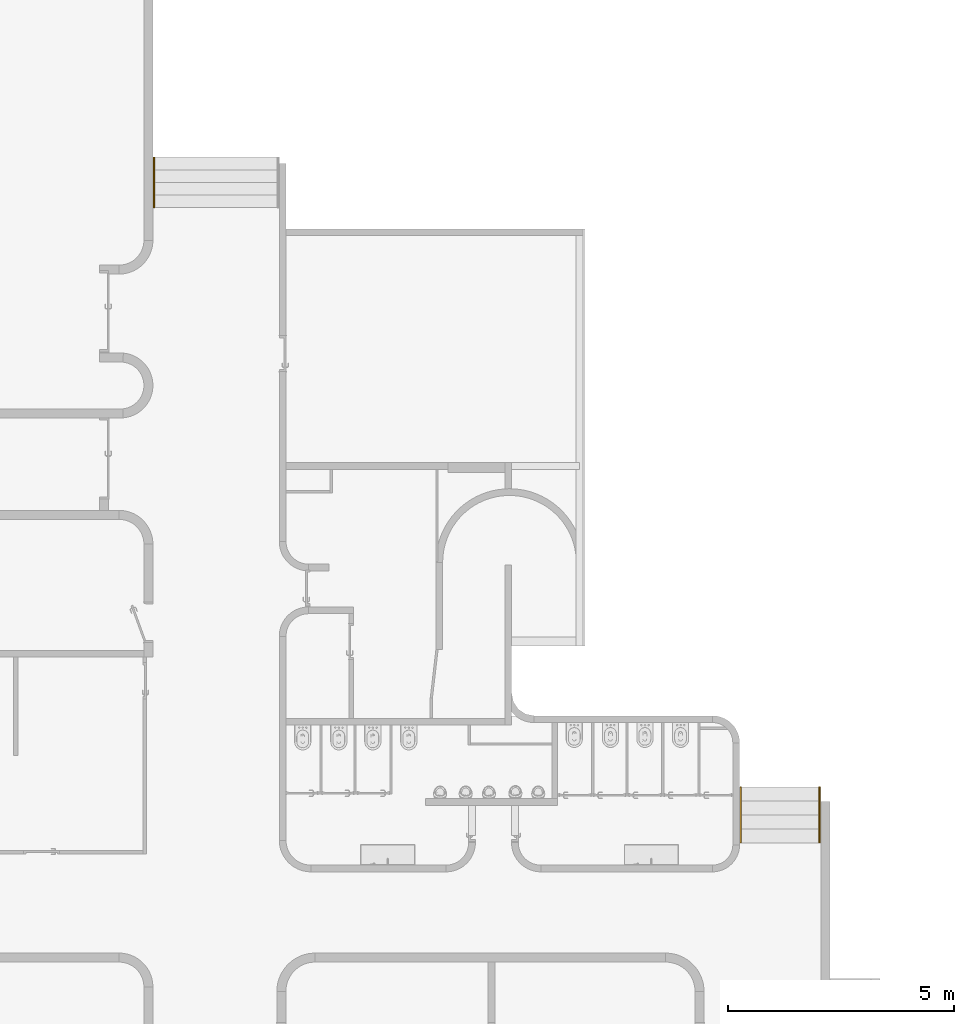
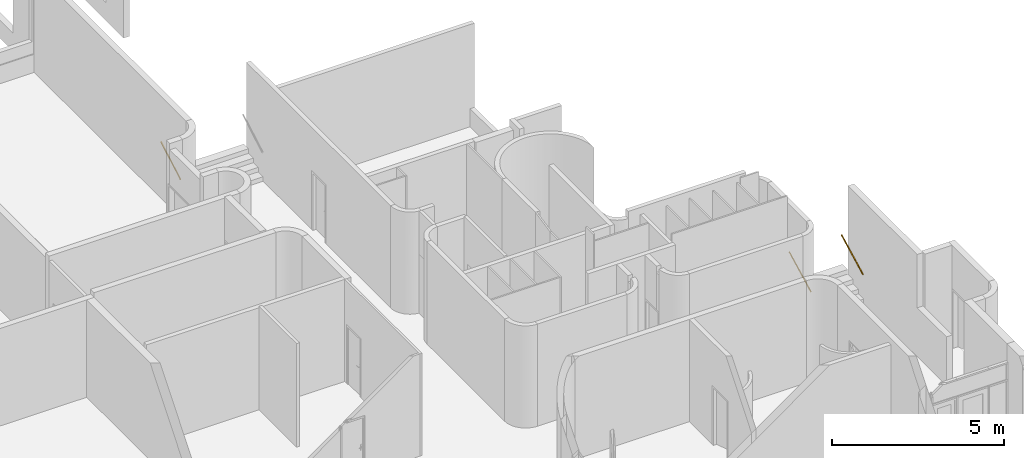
# One storey, part 9 of 9: 3 railings, 2 elements without a shape of their own.
"""IFC2X3 building model written with IfcOpenShell, lengths in metres."""

import ifcopenshell
import ifcopenshell.guid

model = None  # the IFC model being written
_history = None  # IfcOwnerHistory: only IFC2X3 demands one
_inside = {}  # id of a spatial element -> (the spatial element, [elements in it])
_under = {}  # id of a project, library or spatial element -> (it, [spatial elements below it])
_declared = {}  # id of a project -> (the project, [libraries it declares])
_typed = {}  # id of a type object -> (the type object, [elements of that type])
_made_of = {}  # id of a material, layer set ... -> (it, [elements and type objects made of it])


def new_model(schema):
    """Start an empty IFC model of exactly this schema.

    Asked for "IFC4X3", IfcOpenShell would pick the latest addendum, in which some entities
    have other attributes; the version numbers below select the first issue.
    IFC2X3 requires an IfcOwnerHistory on every rooted entity: one is made here for all.
    """
    global model, _history
    if schema == "IFC4X3":
        model = ifcopenshell.file(schema_version=(4, 3, 0, 0))
    else:
        model = ifcopenshell.file(schema=schema)
    _inside.clear()
    _under.clear()
    _declared.clear()
    _typed.clear()
    _made_of.clear()
    _history = None
    if model.schema == "IFC2X3":
        org = make("IfcOrganization", Name="unknown")
        user = make(
            "IfcPersonAndOrganization",
            ThePerson=make("IfcPerson", FamilyName="unknown"),
            TheOrganization=org,
        )
        app = make(
            "IfcApplication",
            ApplicationDeveloper=org,
            Version="unknown",
            ApplicationFullName="unknown",
            ApplicationIdentifier="unknown",
        )
        _history = make(
            "IfcOwnerHistory",
            OwningUser=user,
            OwningApplication=app,
            ChangeAction="ADDED",
            CreationDate=0,
        )
    return model


def make(cls, **values):
    """One entity of the class cls with the attributes given. An attribute that is None is left unset."""
    return model.create_entity(
        cls, **{name: value for name, value in values.items() if value is not None}
    )


def entity(cls, *values):
    """Any entity or typed value of the class cls, its attributes in the order of the schema. None: left unset."""
    e = model.create_entity(cls)
    for i, value in enumerate(values):
        if value is not None:
            e[i] = value
    return e


def rooted(cls, **values):
    """An entity with a GlobalId (a new one), such as an element, a storey or a relation."""
    return make(cls, GlobalId=ifcopenshell.guid.new(), OwnerHistory=_history, **values)


def si_unit(unit_type, name, prefix=None):
    """IfcSIUnit, for example si_unit("LENGTHUNIT", "METRE", prefix="MILLI")."""
    return make("IfcSIUnit", UnitType=unit_type, Prefix=prefix, Name=name)


def converted_unit(unit_type, name, factor, base, dimensions=None, offset=None):
    """IfcConversionBasedUnit, such as the inch: factor (a typed value) times the base unit."""
    return make(
        "IfcConversionBasedUnit"
        if offset is None
        else "IfcConversionBasedUnitWithOffset",
        ConversionOffset=offset,
        Dimensions=None
        if dimensions is None
        else entity("IfcDimensionalExponents", *dimensions),
        UnitType=unit_type,
        Name=name,
        ConversionFactor=make(
            "IfcMeasureWithUnit", ValueComponent=factor, UnitComponent=base
        ),
    )


def derived_unit(unit_type, elements):
    """IfcDerivedUnit: a product of units, each with its exponent."""
    return make(
        "IfcDerivedUnit",
        Elements=[
            make("IfcDerivedUnitElement", Unit=unit, Exponent=power)
            for unit, power in elements
        ],
        UnitType=unit_type,
    )


def assignment(units):
    """IfcUnitAssignment: the units of a project."""
    return None if units is None else make("IfcUnitAssignment", Units=units)


def point(xyz):
    """IfcCartesianPoint."""
    return None if xyz is None else make("IfcCartesianPoint", Coordinates=xyz)


def direction(xyz):
    """IfcDirection."""
    return None if xyz is None else make("IfcDirection", DirectionRatios=xyz)


def frame(location, z_axis=None, x_axis=None):
    """IfcAxis2Placement3D, a coordinate frame: its origin and axes. An axis left out is left unset."""
    return make(
        "IfcAxis2Placement3D",
        Location=point(location),
        Axis=direction(z_axis),
        RefDirection=direction(x_axis),
    )


def origin():
    """The frame at (0, 0, 0) with its axes left unset."""
    return frame((0.0, 0.0, 0.0))


def place(relative_to, where):
    """IfcLocalPlacement: puts the frame where relative to a parent placement (None: the world)."""
    return make(
        "IfcLocalPlacement", PlacementRelTo=relative_to, RelativePlacement=where
    )


def context(
    kind, dimensions, precision=None, world=None, true_north=None, identifier=None
):
    """IfcGeometricRepresentationContext, for example the 3D "Model" context."""
    return make(
        "IfcGeometricRepresentationContext",
        ContextIdentifier=identifier,
        ContextType=kind,
        CoordinateSpaceDimension=dimensions,
        Precision=precision,
        WorldCoordinateSystem=world,
        TrueNorth=true_north,
    )


def subcontext(parent, identifier, kind, view, scale=None):
    """IfcGeometricRepresentationSubContext, for example "Body" below "Model"."""
    return make(
        "IfcGeometricRepresentationSubContext",
        ContextIdentifier=identifier,
        ContextType=kind,
        ParentContext=parent,
        TargetScale=scale,
        TargetView=view,
    )


def project(units=None, contexts=None):
    """IfcProject with its units and contexts."""
    return rooted(
        "IfcProject",
        Name="project",
        RepresentationContexts=contexts,
        UnitsInContext=assignment(units),
    )


def spatial(cls, under=None, at=None, **own):
    """A site, building, storey or space (cls), placed at a placement, below another one or the project."""
    s = rooted(cls, ObjectPlacement=at, **own)
    if under is not None:
        _under.setdefault(under.id(), (under, []))[1].append(s)
    return s


def faces_of(points, faces, orient=None, outer=None):
    """IfcFace entities. A face is a list of loops; a loop is a list of indices into points, from 0.

    orient and outer hold one flag for each loop. By default every Orientation is true, the
    first loop of a face is its IfcFaceOuterBound and the others are IfcFaceBound.
    """
    made = []
    for i, loops in enumerate(faces):
        bounds = []
        for j, loop in enumerate(loops):
            is_outer = j == 0 if outer is None else outer[i][j]
            bounds.append(
                make(
                    "IfcFaceOuterBound" if is_outer else "IfcFaceBound",
                    Bound=make("IfcPolyLoop", Polygon=[points[k] for k in loop]),
                    Orientation=True if orient is None else orient[i][j],
                )
            )
        made.append(make("IfcFace", Bounds=bounds))
    return made


def faceted_brep(points, faces, orient=None, outer=None, voids=None):
    """IfcFacetedBrep: a solid bounded by flat faces; with voids (closed shells), ...WithVoids."""
    shared = [point(p) for p in points]
    hull = make("IfcClosedShell", CfsFaces=faces_of(shared, faces, orient, outer))
    if voids is None:
        return make("IfcFacetedBrep", Outer=hull)
    return make(
        "IfcFacetedBrepWithVoids",
        Outer=hull,
        Voids=[
            make(cls, CfsFaces=faces_of(shared, fs, o, b)) for cls, fs, o, b in voids
        ],
    )


def shape(context_of_items, identifier, shape_type, items):
    """IfcShapeRepresentation: the items that make up one representation, for example the "Body"."""
    return make(
        "IfcShapeRepresentation",
        ContextOfItems=context_of_items,
        RepresentationIdentifier=identifier,
        RepresentationType=shape_type,
        Items=items,
    )


def material(Name=None, Category=None):
    """IfcMaterial."""
    return make("IfcMaterial", Name=Name, Category=Category)


def made_of(thing, what):
    """Note that an element or type object is made of a material, layer set ...; save() writes the relation."""
    if what is not None:
        _made_of.setdefault(what.id(), (what, []))[1].append(thing)
    return thing


def element(
    cls,
    number,
    at=None,
    inside=None,
    cuts=None,
    type_object=None,
    material=None,
    context=None,
    identifier="Body",
    shape_type=None,
    held_by="IfcProductDefinitionShape",
    body=None,
    shapes=None,
    **own,
):
    """One element of the class cls, such as IfcWall. Its Tag is "e" and its number.

    at: its placement. inside: the storey or other place that contains it. cuts: it is an
    opening in that element (IfcRelVoidsElement). A single representation is given by context,
    identifier, shape_type and body (its items); several are given by shapes. held_by: the class
    of the entity that holds the representations. save() writes the other relations.
    """
    e = rooted(cls, Tag="e%d" % number, ObjectPlacement=at, **own)
    if body is not None:
        shapes = [shape(context, identifier, shape_type, body)]
    if shapes is not None:
        e.Representation = make(held_by, Representations=shapes)
    if inside is not None:
        _inside.setdefault(inside.id(), (inside, []))[1].append(e)
    if cuts is not None:
        rooted(
            "IfcRelVoidsElement", RelatingBuildingElement=cuts, RelatedOpeningElement=e
        )
    if type_object is not None:
        _typed.setdefault(type_object.id(), (type_object, []))[1].append(e)
    return made_of(e, material)


def aggregate(whole, parts):
    """IfcRelAggregates: a whole, such as a stair, and the parts it consists of."""
    return rooted("IfcRelAggregates", RelatingObject=whole, RelatedObjects=parts)


def save(model, path):
    """Write the relations noted so far, then the file.

    IfcRelAggregates (storeys below a building ...), IfcRelContainedInSpatialStructure (elements
    in a storey), IfcRelDefinesByType, IfcRelAssociatesMaterial and IfcRelDeclares: one each for
    every whole, place, type object, material and project.
    """
    for whole, parts in _under.values():
        aggregate(whole, parts)
    for where, things in _inside.values():
        rooted(
            "IfcRelContainedInSpatialStructure",
            RelatedElements=things,
            RelatingStructure=where,
        )
    for kind, things in _typed.values():
        rooted("IfcRelDefinesByType", RelatedObjects=things, RelatingType=kind)
    for what, things in _made_of.values():
        rooted("IfcRelAssociatesMaterial", RelatedObjects=things, RelatingMaterial=what)
    for by, libraries in _declared.values():
        rooted("IfcRelDeclares", RelatingContext=by, RelatedDefinitions=libraries)
    model.write(path)


model = new_model("IFC2X3")

# Units and contexts
model_context = context("Model", 3, precision=1e-05, world=origin(), true_north=direction((6.12303176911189e-17, 1.0)))
body_context = subcontext(model_context, "Body", "Model", "MODEL_VIEW")
ifc_project = project(units=[si_unit("LENGTHUNIT", "METRE"), si_unit("AREAUNIT", "SQUARE_METRE"), si_unit("VOLUMEUNIT", "CUBIC_METRE"), converted_unit("PLANEANGLEUNIT", "DEGREE", entity("IfcRatioMeasure", 0.0174532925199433), si_unit("PLANEANGLEUNIT", "RADIAN"), dimensions=[0, 0, 0, 0, 0, 0, 0]), si_unit("MASSUNIT", "GRAM", prefix="KILO"), derived_unit("MASSDENSITYUNIT", [(si_unit("MASSUNIT", "GRAM", prefix="KILO"), 1), (si_unit("LENGTHUNIT", "METRE"), -3)]), derived_unit("MOMENTOFINERTIAUNIT", [(si_unit("LENGTHUNIT", "METRE"), 4)]), si_unit("TIMEUNIT", "SECOND"), si_unit("FREQUENCYUNIT", "HERTZ"), si_unit("THERMODYNAMICTEMPERATUREUNIT", "DEGREE_CELSIUS"), derived_unit("THERMALTRANSMITTANCEUNIT", [(si_unit("MASSUNIT", "GRAM", prefix="KILO"), 1), (si_unit("THERMODYNAMICTEMPERATUREUNIT", "KELVIN"), -1), (si_unit("TIMEUNIT", "SECOND"), -3)]), derived_unit("VOLUMETRICFLOWRATEUNIT", [(si_unit("LENGTHUNIT", "METRE"), 3), (si_unit("TIMEUNIT", "SECOND"), -1)]), si_unit("ELECTRICCURRENTUNIT", "AMPERE"), si_unit("ELECTRICVOLTAGEUNIT", "VOLT"), si_unit("POWERUNIT", "WATT"), si_unit("FORCEUNIT", "NEWTON", prefix="KILO"), si_unit("ILLUMINANCEUNIT", "LUX"), si_unit("LUMINOUSFLUXUNIT", "LUMEN"), si_unit("LUMINOUSINTENSITYUNIT", "CANDELA"), derived_unit("USERDEFINED", [(si_unit("MASSUNIT", "GRAM", prefix="KILO"), -1), (si_unit("LENGTHUNIT", "METRE"), -2), (si_unit("TIMEUNIT", "SECOND"), 3), (si_unit("LUMINOUSFLUXUNIT", "LUMEN"), 1)]), derived_unit("LINEARVELOCITYUNIT", [(si_unit("LENGTHUNIT", "METRE"), 1), (si_unit("TIMEUNIT", "SECOND"), -1)]), si_unit("PRESSUREUNIT", "PASCAL"), derived_unit("USERDEFINED", [(si_unit("LENGTHUNIT", "METRE"), -2), (si_unit("MASSUNIT", "GRAM", prefix="KILO"), 1), (si_unit("TIMEUNIT", "SECOND"), -2)]), derived_unit("LINEARFORCEUNIT", [(si_unit("MASSUNIT", "GRAM", prefix="KILO"), 1), (si_unit("LENGTHUNIT", "METRE"), 1), (si_unit("TIMEUNIT", "SECOND"), -2), (si_unit("LENGTHUNIT", "METRE"), -1)]), derived_unit("PLANARFORCEUNIT", [(si_unit("MASSUNIT", "GRAM", prefix="KILO"), 1), (si_unit("LENGTHUNIT", "METRE"), 1), (si_unit("TIMEUNIT", "SECOND"), -2), (si_unit("LENGTHUNIT", "METRE"), -2)])], contexts=[model_context])

# Site, building, storey
site_placement = place(None, origin())
site = spatial("IfcSite", under=ifc_project, at=site_placement, Name="Default", CompositionType="ELEMENT")
building_placement = place(site_placement, origin())
building = spatial("IfcBuilding", under=site, at=building_placement, CompositionType="ELEMENT")
storey_placement = place(building_placement, frame((0.0, 0.0, 0.253308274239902)))
storey = spatial("IfcBuildingStorey", under=building, at=storey_placement, Name="Niveau 00 - 01", CompositionType="ELEMENT", Elevation=0.253308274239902)

# Stair, railings
stair_1_placement = place(storey_placement, origin())
stair_1 = element("IfcStair", 1, at=stair_1_placement, inside=storey, Name="Escalier coulé sur place:Escalier", ObjectType="Escalier coulé sur place:Escalier monobloc", ShapeType="STRAIGHT_RUN_STAIR")
ifc_material = material(Name="Métal - Peinture Grise")
railing_1_placement = place(stair_1_placement, frame((-3.98598444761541, -11.586581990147, 1.02464454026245)))
railing_1 = element("IfcRailing", 2, at=railing_1_placement, material=ifc_material, Name="Garde-corps:Au Mur", ObjectType="Garde-corps:Au Mur", PredefinedType="NOTDEFINED", context=body_context, shape_type="Brep", body=[
    faceted_brep([(0.0240952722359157, 0.0, 0.00385677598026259), (0.0259702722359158, 0.0, 0.00751142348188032), (0.0278452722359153, 0.0, 0.011166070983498), (0.0297202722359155, 0.0, 0.014820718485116), (0.0315952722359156, 0.0, 0.0184753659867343), (0.0296677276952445, 0.0, 0.0222324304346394), (0.0277401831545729, 0.0, 0.0259894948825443), (0.0259177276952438, 0.0, 0.0295417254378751), (0.0240952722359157, 0.0, 0.0330939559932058), (0.0203452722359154, 0.0, 0.033093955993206), (0.0165952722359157, 0.0, 0.033093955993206), (0.0128452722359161, 0.0, 0.033093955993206), (0.00909527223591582, 0.0, 0.0330939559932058), (0.0072202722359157, 0.0, 0.029439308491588), (0.00534527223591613, 0.0, 0.02578466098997), (0.00352281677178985, 0.0, 0.0222324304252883), (0.0015952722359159, 0.0, 0.0184753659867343), (0.00352281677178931, 0.0, 0.0147183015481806), (0.00534527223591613, 0.0, 0.0111660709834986), (0.0072202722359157, 0.0, 0.00751142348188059), (0.00909527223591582, 0.0, 0.00385677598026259), (0.0128452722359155, 0.0, 0.00385677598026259), (0.0165952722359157, 0.0, 0.00385677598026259), (0.020345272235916, 0.0, 0.00385677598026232), (0.00727281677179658, 1.24, 0.647409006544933), (0.0054503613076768, 1.24, 0.650961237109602), (0.00352281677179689, 1.24, 0.654718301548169), (0.0015952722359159, 1.24, 0.658475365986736), (0.00347027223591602, 1.24, 0.662130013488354), (0.00534527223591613, 1.24, 0.665784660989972), (0.0072202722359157, 1.24, 0.66943930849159), (0.00909527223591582, 1.24, 0.673093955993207), (0.0128452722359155, 1.24, 0.673093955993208), (0.0165952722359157, 1.24, 0.673093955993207), (0.0203452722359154, 1.24, 0.673093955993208), (0.0240952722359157, 1.24, 0.673093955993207), (0.0259702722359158, 1.24, 0.66943930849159), (0.0278452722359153, 1.24, 0.665784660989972), (0.0296677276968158, 1.24, 0.662232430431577), (0.0315952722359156, 1.24, 0.658475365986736), (0.0296677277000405, 1.24, 0.654718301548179), (0.0278452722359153, 1.24, 0.6511660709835), (0.0259702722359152, 1.24, 0.647511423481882), (0.0240952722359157, 1.24, 0.643856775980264), (0.0203452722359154, 1.24, 0.643856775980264), (0.0165952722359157, 1.24, 0.643856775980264), (0.0128452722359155, 1.24, 0.643856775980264), (0.00909527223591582, 1.24, 0.643856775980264)], [[[0, 1, 2, 3, 4, 5, 6, 7, 8, 9, 10, 11, 12, 13, 14, 15, 16, 17, 18, 19, 20, 21, 22, 23]], [[24, 25, 26, 27, 28, 29, 30, 31, 32, 33, 34, 35, 36, 37, 38, 39, 40, 41, 42, 43, 44, 45, 46, 47]], [[20, 19, 18, 17, 16, 27, 26, 25, 24, 47]], [[44, 43, 0, 23, 22, 21, 20, 47, 46, 45]], [[39, 4, 3, 2, 1, 0, 43, 42, 41, 40]], [[32, 31, 12, 11, 10, 9, 8, 35, 34, 33]], [[27, 16, 15, 14, 13, 12, 31, 30, 29, 28]], [[37, 36, 35, 8, 7, 6, 5, 4, 39, 38]]]),
])
railing_2_placement = place(stair_1_placement, frame((-5.73488221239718, -11.586581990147, 1.02464454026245)))
railing_2 = element("IfcRailing", 3, at=railing_2_placement, material=ifc_material, Name="Garde-corps:Au Mur", ObjectType="Garde-corps:Au Mur", PredefinedType="NOTDEFINED", context=body_context, shape_type="Brep", body=[
    faceted_brep([(0.0015952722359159, 0.0, 0.0184753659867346), (0.00352281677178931, 0.0, 0.0147183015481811), (0.00534527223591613, 0.0, 0.0111660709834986), (0.0072202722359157, 0.0, 0.00751142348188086), (0.00909527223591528, 0.0, 0.00385677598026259), (0.0128452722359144, 0.0, 0.00385677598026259), (0.0165952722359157, 0.0, 0.00385677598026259), (0.0203452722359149, 0.0, 0.00385677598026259), (0.0240952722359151, 0.0, 0.00385677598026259), (0.0259702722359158, 0.0, 0.00751142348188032), (0.0278452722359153, 0.0, 0.011166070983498), (0.0297202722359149, 0.0, 0.014820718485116), (0.0315952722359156, 0.0, 0.0184753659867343), (0.0296677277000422, 0.0, 0.0222324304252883), (0.0277401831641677, 0.0, 0.0259894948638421), (0.025917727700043, 0.0, 0.0295417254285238), (0.0240952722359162, 0.0, 0.0330939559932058), (0.020345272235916, 0.0, 0.0330939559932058), (0.0165952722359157, 0.0, 0.0330939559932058), (0.0128452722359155, 0.0, 0.0330939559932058), (0.00909527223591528, 0.0, 0.0330939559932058), (0.0072202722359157, 0.0, 0.0294393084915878), (0.00534527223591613, 0.0, 0.02578466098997), (0.00352281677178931, 0.0, 0.0222324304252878), (0.00727281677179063, 1.24, 0.647409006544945), (0.00545036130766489, 1.24, 0.650961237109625), (0.00352281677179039, 1.24, 0.65471830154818), (0.0015952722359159, 1.24, 0.658475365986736), (0.00347027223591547, 1.24, 0.662130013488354), (0.00534527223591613, 1.24, 0.665784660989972), (0.0072202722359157, 1.24, 0.66943930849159), (0.00909527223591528, 1.24, 0.673093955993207), (0.0128452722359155, 1.24, 0.673093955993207), (0.0165952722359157, 1.24, 0.673093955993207), (0.020345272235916, 1.24, 0.673093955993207), (0.0240952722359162, 1.24, 0.673093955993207), (0.0259702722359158, 1.24, 0.669439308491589), (0.0278452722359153, 1.24, 0.665784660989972), (0.0296677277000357, 1.24, 0.662232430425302), (0.0315952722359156, 1.24, 0.658475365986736), (0.0296677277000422, 1.24, 0.654718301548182), (0.0278452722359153, 1.24, 0.6511660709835), (0.0259702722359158, 1.24, 0.647511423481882), (0.0240952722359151, 1.24, 0.643856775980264), (0.0203452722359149, 1.24, 0.643856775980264), (0.0165952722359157, 1.24, 0.643856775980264), (0.0128452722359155, 1.24, 0.643856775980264), (0.00909527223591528, 1.24, 0.643856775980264)], [[[0, 1, 2, 3, 4, 5, 6, 7, 8, 9, 10, 11, 12, 13, 14, 15, 16, 17, 18, 19, 20, 21, 22, 23]], [[24, 25, 26, 27, 28, 29, 30, 31, 32, 33, 34, 35, 36, 37, 38, 39, 40, 41, 42, 43, 44, 45, 46, 47]], [[32, 31, 20, 19, 18, 17, 16, 35, 34, 33]], [[22, 21, 20, 31, 30, 29, 28, 27, 0, 23]], [[37, 36, 35, 16, 15, 14, 13, 12, 39, 38]], [[4, 3, 2, 1, 0, 27, 26, 25, 24, 47]], [[44, 43, 8, 7, 6, 5, 4, 47, 46, 45]], [[39, 12, 11, 10, 9, 8, 43, 42, 41, 40]]]),
])
aggregate(stair_1, [railing_1, railing_2])

# Stair, railing
stair_2_placement = place(storey_placement, origin())
stair_2 = element("IfcStair", 4, at=stair_2_placement, inside=storey, Name="Escalier coulé sur place:Escalier", ObjectType="Escalier coulé sur place:Escalier monobloc", ShapeType="STRAIGHT_RUN_STAIR")
railing_3_placement = place(stair_2_placement, frame((-18.735184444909, 2.48872063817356, 1.02385219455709)))
railing_3 = element("IfcRailing", 5, at=railing_3_placement, material=ifc_material, Name="Garde-corps:Au Mur", ObjectType="Garde-corps:Au Mur", PredefinedType="NOTDEFINED", context=body_context, shape_type="Brep", body=[
    faceted_brep([(0.0259702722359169, 0.0, 0.00765027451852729), (0.0278452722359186, 0.0, 0.011390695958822), (0.0297202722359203, 0.0, 0.0151311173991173), (0.0315952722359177, 0.0, 0.0188715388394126), (0.0295124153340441, 0.0, 0.0230266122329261), (0.0274295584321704, 0.0, 0.0271816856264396), (0.0257624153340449, 0.0, 0.0305074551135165), (0.0240952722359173, 0.0, 0.0338332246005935), (0.0203452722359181, 0.0, 0.0338332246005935), (0.0165952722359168, 0.0, 0.0338332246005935), (0.0128452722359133, 0.0, 0.0338332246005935), (0.00909527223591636, 0.0, 0.0338332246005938), (0.00722027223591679, 0.0, 0.0300928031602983), (0.00534527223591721, 0.0, 0.0263523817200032), (0.00367812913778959, 0.0, 0.0230266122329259), (0.0015952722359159, 0.0, 0.0188715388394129), (0.00367812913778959, 0.0, 0.0147164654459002), (0.00534527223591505, 0.0, 0.0113906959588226), (0.00722027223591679, 0.0, 0.00765027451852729), (0.00909527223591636, 0.0, 0.00390985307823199), (0.0128452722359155, 0.0, 0.00390985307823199), (0.0165952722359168, 0.0, 0.00390985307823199), (0.020345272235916, 0.0, 0.00390985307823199), (0.0240952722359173, 0.0, 0.00390985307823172), (0.00909527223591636, 1.11999999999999, 0.643909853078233), (0.00742812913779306, 1.11999999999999, 0.647235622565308), (0.0057609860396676, 1.11999999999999, 0.650561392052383), (0.00367812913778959, 1.11999999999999, 0.654716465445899), (0.0015952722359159, 1.11999999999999, 0.658871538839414), (0.00347027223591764, 1.11999999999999, 0.66261196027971), (0.00534527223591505, 1.11999999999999, 0.666352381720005), (0.00722027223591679, 1.11999999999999, 0.6700928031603), (0.00909527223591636, 1.11999999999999, 0.673833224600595), (0.0128452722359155, 1.11999999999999, 0.673833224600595), (0.0165952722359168, 1.11999999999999, 0.673833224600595), (0.0203452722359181, 1.11999999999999, 0.673833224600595), (0.0240952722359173, 1.11999999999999, 0.673833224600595), (0.0259702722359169, 1.11999999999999, 0.6700928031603), (0.0278452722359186, 1.11999999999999, 0.666352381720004), (0.0295124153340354, 1.11999999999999, 0.663026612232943), (0.0315952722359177, 1.11999999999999, 0.658871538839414), (0.0295124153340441, 1.11999999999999, 0.6547164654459), (0.0278452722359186, 1.11999999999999, 0.651390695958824), (0.0259702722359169, 1.11999999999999, 0.647650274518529), (0.0240952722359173, 1.11999999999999, 0.643909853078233), (0.0203452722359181, 1.11999999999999, 0.643909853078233), (0.0165952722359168, 1.11999999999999, 0.643909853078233), (0.0128452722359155, 1.11999999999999, 0.643909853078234)], [[[0, 1, 2, 3, 4, 5, 6, 7, 8, 9, 10, 11, 12, 13, 14, 15, 16, 17, 18, 19, 20, 21, 22, 23]], [[24, 25, 26, 27, 28, 29, 30, 31, 32, 33, 34, 35, 36, 37, 38, 39, 40, 41, 42, 43, 44, 45, 46, 47]], [[33, 32, 11, 10, 9, 8, 7, 36, 35, 34]], [[13, 12, 11, 32, 31, 30, 29, 28, 15, 14]], [[38, 37, 36, 7, 6, 5, 4, 3, 40, 39]], [[19, 18, 17, 16, 15, 28, 27, 26, 25, 24]], [[45, 44, 23, 22, 21, 20, 19, 24, 47, 46]], [[40, 3, 2, 1, 0, 23, 44, 43, 42, 41]]]),
])
aggregate(stair_2, [railing_3])

save(model, "model.ifc")
